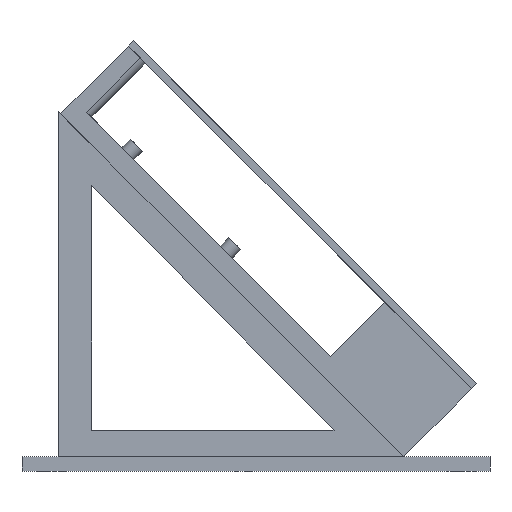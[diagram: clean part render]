
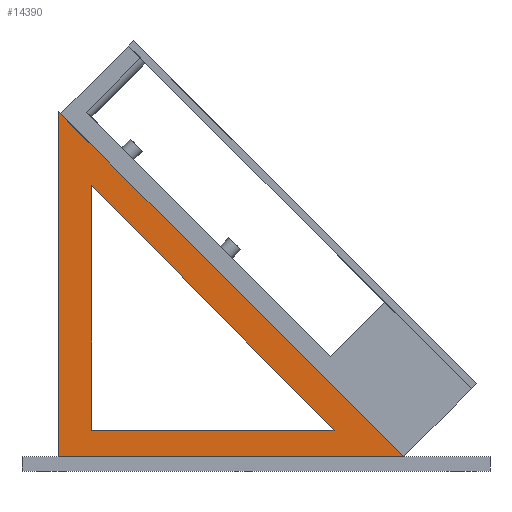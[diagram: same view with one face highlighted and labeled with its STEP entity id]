
A CAD part, left-side view. The second image highlights one B-rep face of the part: STEP entity #14390.
In plain terms, the highlighted planar face has unit normal (-1, 0, 0).
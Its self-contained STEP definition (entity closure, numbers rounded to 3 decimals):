
#13682 = PLANE('',#13683);
#13683 = AXIS2_PLACEMENT_3D('',#13684,#13685,#13686);
#13684 = CARTESIAN_POINT('',(0.,0.,6.));
#13685 = DIRECTION('',(0.,0.,1.));
#13686 = DIRECTION('',(1.,0.,0.));
#13822 = VERTEX_POINT('',#13823);
#13823 = CARTESIAN_POINT('',(13.,36.,6.));
#13839 = PLANE('',#13840);
#13840 = AXIS2_PLACEMENT_3D('',#13841,#13842,#13843);
#13841 = CARTESIAN_POINT('',(13.,180.,150.));
#13842 = DIRECTION('',(0.,0.707,-0.707));
#13843 = DIRECTION('',(0.,-0.707,-0.707));
#13851 = EDGE_CURVE('',#13822,#13852,#13854,.T.);
#13852 = VERTEX_POINT('',#13853);
#13853 = CARTESIAN_POINT('',(13.,180.,6.));
#13854 = SURFACE_CURVE('',#13855,(#13859,#13865),.PCURVE_S1.);
#13855 = LINE('',#13856,#13857);
#13856 = CARTESIAN_POINT('',(13.,64.501,6.));
#13857 = VECTOR('',#13858,1.);
#13858 = DIRECTION('',(0.,1.,0.));
#13859 = PCURVE('',#13682,#13860);
#13860 = DEFINITIONAL_REPRESENTATION('',(#13861),#13864);
#13861 = B_SPLINE_CURVE_WITH_KNOTS('',1,(#13862,#13863),.UNSPECIFIED.,
  .F.,.F.,(2,2),(-28.501,115.499),
  .PIECEWISE_BEZIER_KNOTS.);
#13862 = CARTESIAN_POINT('',(13.,36.));
#13863 = CARTESIAN_POINT('',(13.,180.));
#13864 = ( GEOMETRIC_REPRESENTATION_CONTEXT(2) 
PARAMETRIC_REPRESENTATION_CONTEXT() REPRESENTATION_CONTEXT('2D SPACE',''
  ) );
#13865 = PCURVE('',#13866,#13871);
#13866 = PLANE('',#13867);
#13867 = AXIS2_PLACEMENT_3D('',#13868,#13869,#13870);
#13868 = CARTESIAN_POINT('',(13.,129.003,56.412));
#13869 = DIRECTION('',(1.,0.,0.));
#13870 = DIRECTION('',(-0.,0.,1.));
#13871 = DEFINITIONAL_REPRESENTATION('',(#13872),#13875);
#13872 = B_SPLINE_CURVE_WITH_KNOTS('',1,(#13873,#13874),.UNSPECIFIED.,
  .F.,.F.,(2,2),(-28.501,115.499),
  .PIECEWISE_BEZIER_KNOTS.);
#13873 = CARTESIAN_POINT('',(-50.412,93.003));
#13874 = CARTESIAN_POINT('',(-50.412,-50.997));
#13875 = ( GEOMETRIC_REPRESENTATION_CONTEXT(2) 
PARAMETRIC_REPRESENTATION_CONTEXT() REPRESENTATION_CONTEXT('2D SPACE',''
  ) );
#13892 = PLANE('',#13893);
#13893 = AXIS2_PLACEMENT_3D('',#13894,#13895,#13896);
#13894 = CARTESIAN_POINT('',(13.,180.,5.));
#13895 = DIRECTION('',(0.,-1.,0.));
#13896 = DIRECTION('',(0.,0.,1.));
#14262 = VERTEX_POINT('',#14263);
#14263 = CARTESIAN_POINT('',(13.,180.,150.));
#14308 = EDGE_CURVE('',#14262,#13822,#14309,.T.);
#14309 = SURFACE_CURVE('',#14310,(#14314,#14321),.PCURVE_S1.);
#14310 = LINE('',#14311,#14312);
#14311 = CARTESIAN_POINT('',(13.,180.,150.));
#14312 = VECTOR('',#14313,1.);
#14313 = DIRECTION('',(0.,-0.707,-0.707));
#14314 = PCURVE('',#13839,#14315);
#14315 = DEFINITIONAL_REPRESENTATION('',(#14316),#14320);
#14316 = LINE('',#14317,#14318);
#14317 = CARTESIAN_POINT('',(0.,0.));
#14318 = VECTOR('',#14319,1.);
#14319 = DIRECTION('',(1.,0.));
#14320 = ( GEOMETRIC_REPRESENTATION_CONTEXT(2) 
PARAMETRIC_REPRESENTATION_CONTEXT() REPRESENTATION_CONTEXT('2D SPACE',''
  ) );
#14321 = PCURVE('',#13866,#14322);
#14322 = DEFINITIONAL_REPRESENTATION('',(#14323),#14327);
#14323 = LINE('',#14324,#14325);
#14324 = CARTESIAN_POINT('',(93.588,-50.997));
#14325 = VECTOR('',#14326,1.);
#14326 = DIRECTION('',(-0.707,0.707));
#14327 = ( GEOMETRIC_REPRESENTATION_CONTEXT(2) 
PARAMETRIC_REPRESENTATION_CONTEXT() REPRESENTATION_CONTEXT('2D SPACE',''
  ) );
#14390 = ADVANCED_FACE('',(#14391,#14416),#13866,.F.);
#14391 = FACE_BOUND('',#14392,.F.);
#14392 = EDGE_LOOP('',(#14393,#14394,#14395));
#14393 = ORIENTED_EDGE('',*,*,#14308,.T.);
#14394 = ORIENTED_EDGE('',*,*,#13851,.T.);
#14395 = ORIENTED_EDGE('',*,*,#14396,.T.);
#14396 = EDGE_CURVE('',#13852,#14262,#14397,.T.);
#14397 = SURFACE_CURVE('',#14398,(#14402,#14409),.PCURVE_S1.);
#14398 = LINE('',#14399,#14400);
#14399 = CARTESIAN_POINT('',(13.,180.,5.));
#14400 = VECTOR('',#14401,1.);
#14401 = DIRECTION('',(0.,0.,1.));
#14402 = PCURVE('',#13866,#14403);
#14403 = DEFINITIONAL_REPRESENTATION('',(#14404),#14408);
#14404 = LINE('',#14405,#14406);
#14405 = CARTESIAN_POINT('',(-51.412,-50.997));
#14406 = VECTOR('',#14407,1.);
#14407 = DIRECTION('',(1.,0.));
#14408 = ( GEOMETRIC_REPRESENTATION_CONTEXT(2) 
PARAMETRIC_REPRESENTATION_CONTEXT() REPRESENTATION_CONTEXT('2D SPACE',''
  ) );
#14409 = PCURVE('',#13892,#14410);
#14410 = DEFINITIONAL_REPRESENTATION('',(#14411),#14415);
#14411 = LINE('',#14412,#14413);
#14412 = CARTESIAN_POINT('',(0.,0.));
#14413 = VECTOR('',#14414,1.);
#14414 = DIRECTION('',(1.,0.));
#14415 = ( GEOMETRIC_REPRESENTATION_CONTEXT(2) 
PARAMETRIC_REPRESENTATION_CONTEXT() REPRESENTATION_CONTEXT('2D SPACE',''
  ) );
#14416 = FACE_BOUND('',#14417,.F.);
#14417 = EDGE_LOOP('',(#14418,#14446,#14472));
#14418 = ORIENTED_EDGE('',*,*,#14419,.T.);
#14419 = EDGE_CURVE('',#14420,#14422,#14424,.T.);
#14420 = VERTEX_POINT('',#14421);
#14421 = CARTESIAN_POINT('',(13.,166.,119.));
#14422 = VERTEX_POINT('',#14423);
#14423 = CARTESIAN_POINT('',(13.,166.,17.));
#14424 = SURFACE_CURVE('',#14425,(#14429,#14435),.PCURVE_S1.);
#14425 = LINE('',#14426,#14427);
#14426 = CARTESIAN_POINT('',(13.,166.,36.706));
#14427 = VECTOR('',#14428,1.);
#14428 = DIRECTION('',(0.,0.,-1.));
#14429 = PCURVE('',#13866,#14430);
#14430 = DEFINITIONAL_REPRESENTATION('',(#14431),#14434);
#14431 = B_SPLINE_CURVE_WITH_KNOTS('',1,(#14432,#14433),.UNSPECIFIED.,
  .F.,.F.,(2,2),(-82.294,19.706),
  .PIECEWISE_BEZIER_KNOTS.);
#14432 = CARTESIAN_POINT('',(62.588,-36.997));
#14433 = CARTESIAN_POINT('',(-39.412,-36.997));
#14434 = ( GEOMETRIC_REPRESENTATION_CONTEXT(2) 
PARAMETRIC_REPRESENTATION_CONTEXT() REPRESENTATION_CONTEXT('2D SPACE',''
  ) );
#14435 = PCURVE('',#14436,#14441);
#14436 = PLANE('',#14437);
#14437 = AXIS2_PLACEMENT_3D('',#14438,#14439,#14440);
#14438 = CARTESIAN_POINT('',(12.,166.,17.));
#14439 = DIRECTION('',(0.,-1.,0.));
#14440 = DIRECTION('',(0.,0.,1.));
#14441 = DEFINITIONAL_REPRESENTATION('',(#14442),#14445);
#14442 = B_SPLINE_CURVE_WITH_KNOTS('',1,(#14443,#14444),.UNSPECIFIED.,
  .F.,.F.,(2,2),(-82.294,19.706),
  .PIECEWISE_BEZIER_KNOTS.);
#14443 = CARTESIAN_POINT('',(102.,-1.));
#14444 = CARTESIAN_POINT('',(0.,-1.));
#14445 = ( GEOMETRIC_REPRESENTATION_CONTEXT(2) 
PARAMETRIC_REPRESENTATION_CONTEXT() REPRESENTATION_CONTEXT('2D SPACE',''
  ) );
#14446 = ORIENTED_EDGE('',*,*,#14447,.T.);
#14447 = EDGE_CURVE('',#14422,#14448,#14450,.T.);
#14448 = VERTEX_POINT('',#14449);
#14449 = CARTESIAN_POINT('',(13.,65.,17.));
#14450 = SURFACE_CURVE('',#14451,(#14455,#14461),.PCURVE_S1.);
#14451 = LINE('',#14452,#14453);
#14452 = CARTESIAN_POINT('',(13.,97.001,17.));
#14453 = VECTOR('',#14454,1.);
#14454 = DIRECTION('',(0.,-1.,0.));
#14455 = PCURVE('',#13866,#14456);
#14456 = DEFINITIONAL_REPRESENTATION('',(#14457),#14460);
#14457 = B_SPLINE_CURVE_WITH_KNOTS('',1,(#14458,#14459),.UNSPECIFIED.,
  .F.,.F.,(2,2),(-68.999,32.001),
  .PIECEWISE_BEZIER_KNOTS.);
#14458 = CARTESIAN_POINT('',(-39.412,-36.997));
#14459 = CARTESIAN_POINT('',(-39.412,64.003));
#14460 = ( GEOMETRIC_REPRESENTATION_CONTEXT(2) 
PARAMETRIC_REPRESENTATION_CONTEXT() REPRESENTATION_CONTEXT('2D SPACE',''
  ) );
#14461 = PCURVE('',#14462,#14467);
#14462 = PLANE('',#14463);
#14463 = AXIS2_PLACEMENT_3D('',#14464,#14465,#14466);
#14464 = CARTESIAN_POINT('',(12.,65.,17.));
#14465 = DIRECTION('',(0.,0.,1.));
#14466 = DIRECTION('',(0.,1.,0.));
#14467 = DEFINITIONAL_REPRESENTATION('',(#14468),#14471);
#14468 = B_SPLINE_CURVE_WITH_KNOTS('',1,(#14469,#14470),.UNSPECIFIED.,
  .F.,.F.,(2,2),(-68.999,32.001),
  .PIECEWISE_BEZIER_KNOTS.);
#14469 = CARTESIAN_POINT('',(101.,-1.));
#14470 = CARTESIAN_POINT('',(0.,-1.));
#14471 = ( GEOMETRIC_REPRESENTATION_CONTEXT(2) 
PARAMETRIC_REPRESENTATION_CONTEXT() REPRESENTATION_CONTEXT('2D SPACE',''
  ) );
#14472 = ORIENTED_EDGE('',*,*,#14473,.T.);
#14473 = EDGE_CURVE('',#14448,#14420,#14474,.T.);
#14474 = SURFACE_CURVE('',#14475,(#14479,#14485),.PCURVE_S1.);
#14475 = LINE('',#14476,#14477);
#14476 = CARTESIAN_POINT('',(13.,141.196,93.95));
#14477 = VECTOR('',#14478,1.);
#14478 = DIRECTION('',(-0.,0.704,0.711));
#14479 = PCURVE('',#13866,#14480);
#14480 = DEFINITIONAL_REPRESENTATION('',(#14481),#14484);
#14481 = B_SPLINE_CURVE_WITH_KNOTS('',1,(#14482,#14483),.UNSPECIFIED.,
  .F.,.F.,(2,2),(-108.292,35.253),
  .PIECEWISE_BEZIER_KNOTS.);
#14482 = CARTESIAN_POINT('',(-39.412,64.003));
#14483 = CARTESIAN_POINT('',(62.588,-36.997));
#14484 = ( GEOMETRIC_REPRESENTATION_CONTEXT(2) 
PARAMETRIC_REPRESENTATION_CONTEXT() REPRESENTATION_CONTEXT('2D SPACE',''
  ) );
#14485 = PCURVE('',#14486,#14491);
#14486 = PLANE('',#14487);
#14487 = AXIS2_PLACEMENT_3D('',#14488,#14489,#14490);
#14488 = CARTESIAN_POINT('',(12.,166.,119.));
#14489 = DIRECTION('',(0.,0.711,-0.704));
#14490 = DIRECTION('',(0.,-0.704,-0.711));
#14491 = DEFINITIONAL_REPRESENTATION('',(#14492),#14495);
#14492 = B_SPLINE_CURVE_WITH_KNOTS('',1,(#14493,#14494),.UNSPECIFIED.,
  .F.,.F.,(2,2),(-108.292,35.253),
  .PIECEWISE_BEZIER_KNOTS.);
#14493 = CARTESIAN_POINT('',(143.544,-1.));
#14494 = CARTESIAN_POINT('',(0.,-1.));
#14495 = ( GEOMETRIC_REPRESENTATION_CONTEXT(2) 
PARAMETRIC_REPRESENTATION_CONTEXT() REPRESENTATION_CONTEXT('2D SPACE',''
  ) );
